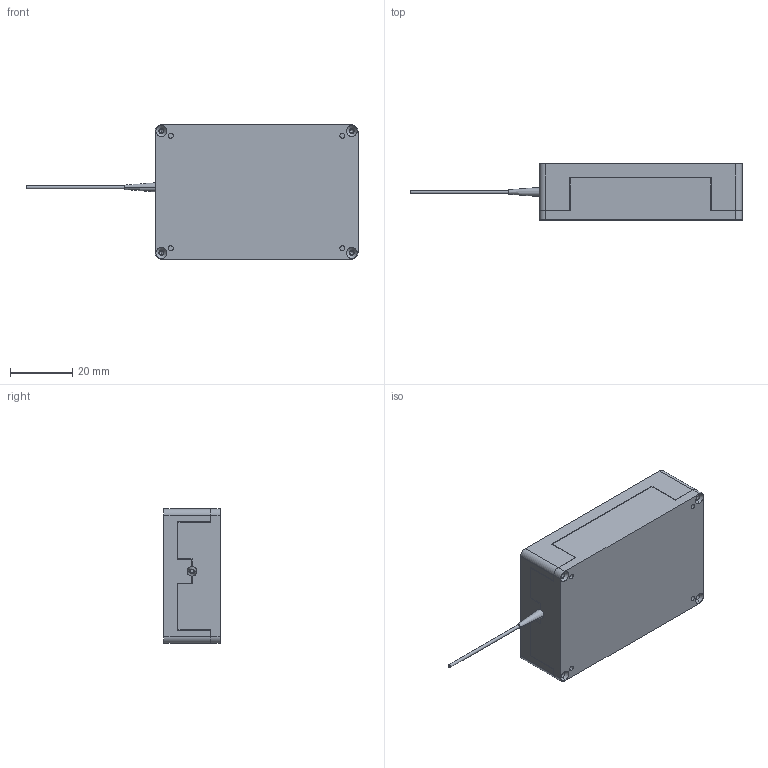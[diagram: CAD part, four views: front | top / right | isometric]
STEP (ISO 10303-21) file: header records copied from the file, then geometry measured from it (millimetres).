
FILE_DESCRIPTION(/* description */ (''),/* implementation_level */ '2;1');
FILE_NAME(/* name */ '装配体.stp',/* time_stamp */ '2026-04-27T15:04:41+08:00',/* author */ (''),/* organization */ (''),/* preprocessor_version */ 'ST-DEVELOPER v20.1',/* originating_system */ 'SIEMENS PLM Software NX2512.1700',/* authorisation */ '');
FILE_SCHEMA (('AUTOMOTIVE_DESIGN { 1 0 10303 214 3 1 1 1 }'));
Length unit declared in the file: millimetre
Products named in the file (3): V4上盖; 单纤橡胶尾套_step; V4底板
Assembly tree (2 placements, depth 2):
  V4底板
    单纤橡胶尾套_step
    V4上盖
Bounding box: 106.35 x 18 x 43 mm (x, y, z)
Volume: 37059.3 mm3; surface area: 17655.3 mm2
Topology: 4 solids, 4 shells, 205 faces, 563 edges, 358 vertices
Faces by surface type: plane 101, cylinder 78, cone 26
Full cylindrical faces by diameter (mm): 1 x1
Entity records: 6506 total; most frequent: DIRECTION 1130, CARTESIAN_POINT 1112, ORIENTED_EDGE 1092, EDGE_CURVE 546, LINE 378, VECTOR 378, AXIS2_PLACEMENT_3D 376, VERTEX_POINT 358
